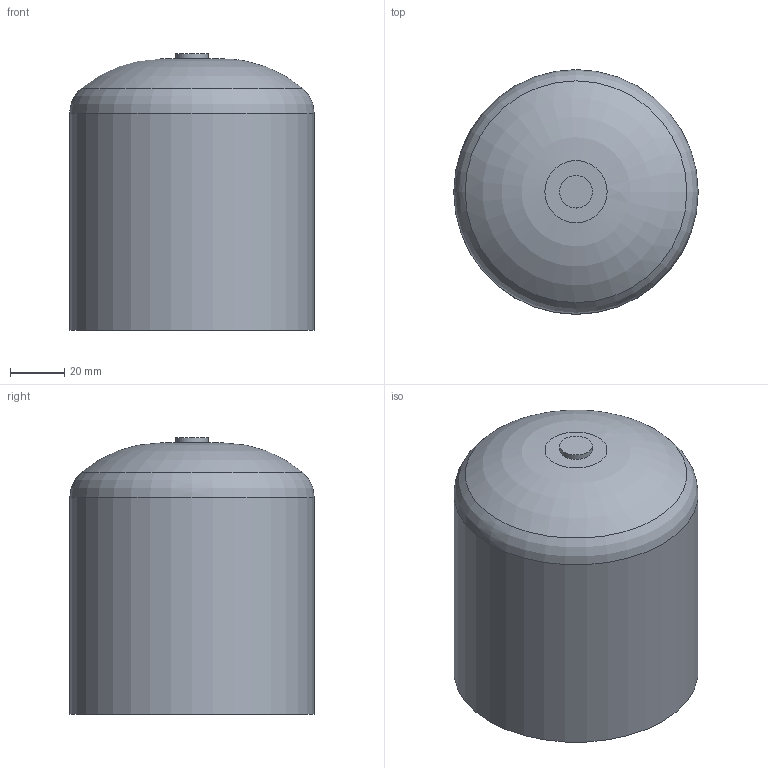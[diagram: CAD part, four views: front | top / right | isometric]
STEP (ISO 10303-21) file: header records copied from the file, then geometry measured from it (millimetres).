
FILE_DESCRIPTION(/* description */ ('Unknown'),/* implementation_level */ '2;1');
FILE_NAME(/* name */ 'CAP090B',/* time_stamp */ '2022-04-02T09:09:49+02:00',/* author */ ('Unknown'),/* organization */ ('Unknown'),/* preprocessor_version */ 'ST-DEVELOPER v18.1',/* originating_system */ 'Solid Edge',/* authorisation */ 'Unknown');
FILE_SCHEMA (('AUTOMOTIVE_DESIGN {1 0 10303 214 3 1 1}'));
Length unit declared in the file: millimetre
Products named in the file (1): CAP090B
Bounding box: 90 x 90 x 102 mm (x, y, z)
Volume: 173689.9 mm3; surface area: 59538.1 mm2
Topology: 1 solids, 1 shells, 154 faces, 356 edges, 199 vertices
Faces by surface type: bspline 108, torus 26, plane 9, sphere 7, cylinder 3, cone 1
Full cylindrical faces by diameter (mm): 12 x1, 79.2 x1, 90 x1
Entity records: 5692 total; most frequent: CARTESIAN_POINT 3009, ORIENTED_EDGE 676, DIRECTION 386, EDGE_CURVE 338, VERTEX_POINT 194, AXIS2_PLACEMENT_3D 193, B_SPLINE_CURVE_WITH_KNOTS 192, EDGE_LOOP 162
